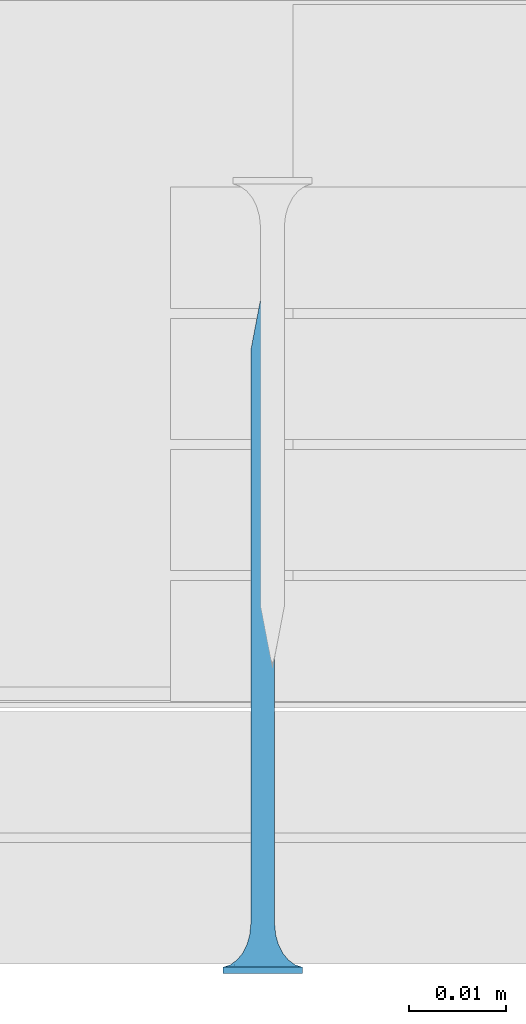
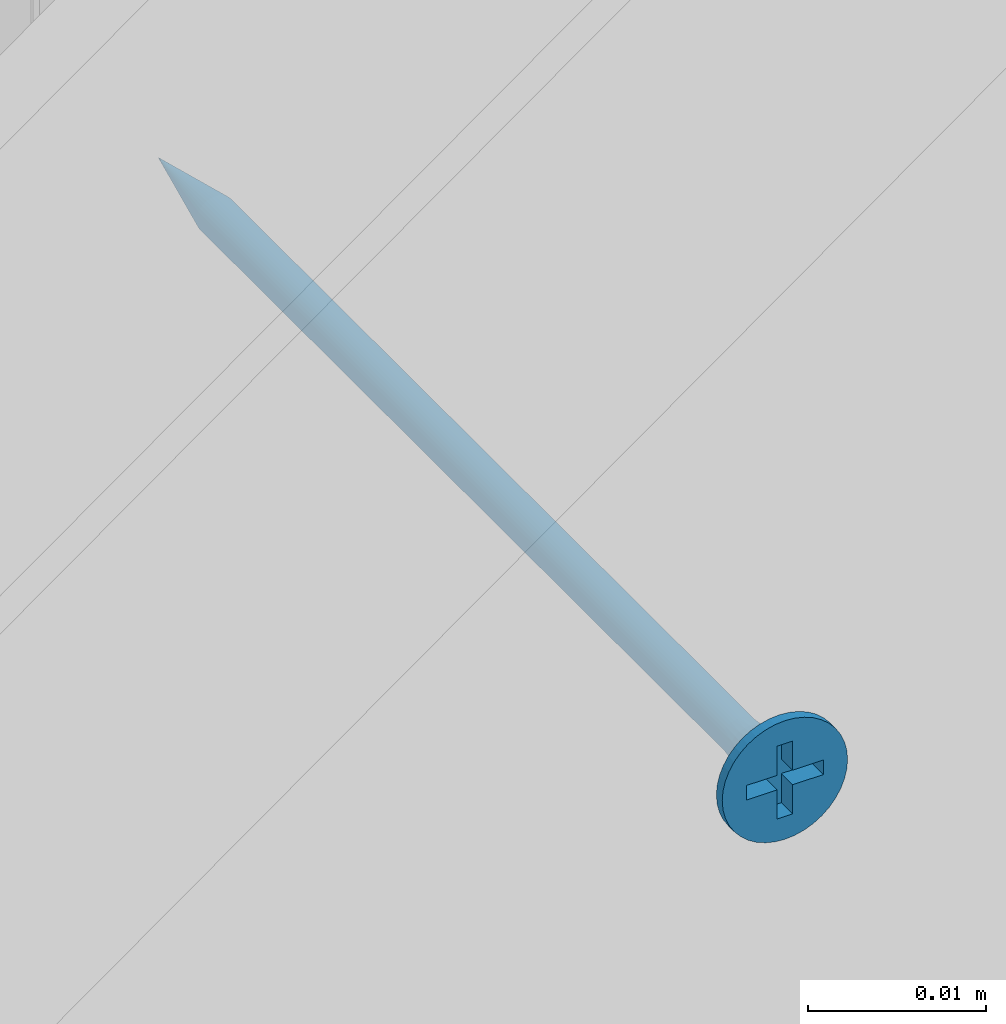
# One storey, part 23 of 32: 1 wall.
"""IFC2X3 building model written with IfcOpenShell, lengths in millimetres."""

from ifc_helpers import new_model, entity, si_unit, converted_unit, direction, frame, origin, origin_with_axes, place, context, project, spatial, faceted_brep, element, save


model = new_model("IFC2X3")

# Units and contexts
model_context = context("Model", 3, precision=1e-05, world=origin(), true_north=direction((0.0, 1.0, 0.0)))
ifc_project = project(units=[si_unit("LENGTHUNIT", "METRE", prefix="MILLI"), si_unit("AREAUNIT", "SQUARE_METRE"), si_unit("VOLUMEUNIT", "CUBIC_METRE"), converted_unit("PLANEANGLEUNIT", "DEGREE", entity("IfcPlaneAngleMeasure", 0.01745), si_unit("PLANEANGLEUNIT", "RADIAN"), dimensions=[0, 0, 0, 0, 0, 0, 0]), si_unit("SOLIDANGLEUNIT", "STERADIAN"), si_unit("MASSUNIT", "GRAM"), si_unit("TIMEUNIT", "SECOND"), si_unit("THERMODYNAMICTEMPERATUREUNIT", "DEGREE_CELSIUS"), si_unit("LUMINOUSINTENSITYUNIT", "LUMEN")], contexts=[model_context])

# Site, building, storey
site_placement = place(None, origin_with_axes())
site = spatial("IfcSite", under=ifc_project, at=site_placement, Name="Default Site", CompositionType="ELEMENT")
building_placement = place(site_placement, origin_with_axes())
building = spatial("IfcBuilding", under=site, at=building_placement, Name="Default Building", CompositionType="ELEMENT")
storey_placement = place(building_placement, origin_with_axes())
storey = spatial("IfcBuildingStorey", under=building, at=storey_placement, Name="Default Building Storey", CompositionType="ELEMENT", Elevation=0.0)

# Wall
wall_placement = place(storey_placement, frame((3244.083250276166, 6753.051005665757, -252.9029311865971), z_axis=(0.0, 0.0, 1.0), x_axis=(1.0, 4.718447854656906e-16, 0.0)))
element("IfcWall", 1, at=wall_placement, inside=storey, Name="Wkręt RIGIPS TN 70", context=model_context, shape_type="Brep", body=[
    faceted_brep([(-138.5557071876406, -4769.093757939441, 555.2413100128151), (-138.5557071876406, -4828.206294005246, 555.2413100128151), (-138.4548091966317, -4828.206294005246, 555.0766594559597), (-138.4548091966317, -4769.093757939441, 555.0766594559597), (-137.2667048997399, -4769.093757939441, 554.5845305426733), (-137.4592163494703, -4769.093757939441, 554.5693795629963), (-137.4592163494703, -4828.206294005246, 554.5693795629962), (-137.2667048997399, -4828.206294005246, 554.5845305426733), (-137.0789337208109, -4769.093757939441, 554.6296104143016), (-137.0789337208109, -4828.206294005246, 554.6296104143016), (-137.2667048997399, -4828.206294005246, 557.0154694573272), (-137.4592163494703, -4828.206294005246, 557.0306204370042), (-137.4592163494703, -4769.093757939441, 557.0306204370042), (-137.2667048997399, -4769.093757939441, 557.0154694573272), (-136.5890362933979, -4769.093757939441, 554.929819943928), (-136.5890362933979, -4828.206294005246, 554.929819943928), (-136.4636235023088, -4828.206294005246, 555.0766594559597), (-136.4636235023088, -4769.093757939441, 555.0766594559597), (-137.0789337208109, -4828.206294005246, 556.9703895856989), (-137.0789337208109, -4769.093757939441, 556.9703895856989), (-136.7358758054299, -4769.093757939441, 554.804407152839), (-136.7358758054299, -4828.206294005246, 554.804407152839), (-136.3627255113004, -4828.206294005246, 555.2413100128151), (-136.3627255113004, -4769.093757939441, 555.2413100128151), (-136.7358758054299, -4828.206294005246, 556.7955928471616), (-136.9005263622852, -4828.206294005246, 556.8964908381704), (-136.9005263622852, -4769.093757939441, 556.8964908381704), (-136.7358758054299, -4769.093757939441, 556.7955928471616), (-136.3627255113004, -4769.093757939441, 556.3586899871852), (-136.3627255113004, -4828.206294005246, 556.3586899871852), (-136.4636235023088, -4828.206294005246, 556.5233405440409), (-136.4636235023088, -4769.093757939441, 556.5233405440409), (-138.3293964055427, -4828.206294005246, 554.929819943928), (-138.3293964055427, -4769.093757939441, 554.929819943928), (-136.9005263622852, -4769.093757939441, 554.7035091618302), (-136.9005263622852, -4828.206294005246, 554.7035091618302), (-138.629605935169, -4769.093757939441, 556.1802826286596), (-138.629605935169, -4828.206294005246, 556.1802826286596), (-138.6746858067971, -4828.206294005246, 555.9925114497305), (-138.6746858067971, -4769.093757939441, 555.9925114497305), (-138.6898367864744, -4769.093757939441, 555.8000000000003), (-138.6898367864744, -4828.206294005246, 555.8000000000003), (-138.6746858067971, -4828.206294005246, 555.60748855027), (-138.6746858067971, -4769.093757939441, 555.60748855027), (-136.2888267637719, -4769.093757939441, 555.4197173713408), (-136.2888267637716, -4828.206294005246, 555.4197173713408), (-136.2437468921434, -4828.206294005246, 555.60748855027), (-136.2437468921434, -4769.093757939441, 555.60748855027), (-138.182556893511, -4828.206294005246, 556.7955928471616), (-138.3293964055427, -4828.206294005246, 556.6701800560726), (-138.3293964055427, -4769.093757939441, 556.6701800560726), (-138.182556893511, -4769.093757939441, 556.7955928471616), (-136.5890362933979, -4828.206294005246, 556.6701800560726), (-136.5890362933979, -4769.093757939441, 556.6701800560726), (-137.6517277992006, -4828.206294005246, 557.0154694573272), (-137.8394989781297, -4828.206294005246, 556.9703895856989), (-137.8394989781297, -4769.093757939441, 556.9703895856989), (-137.6517277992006, -4769.093757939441, 557.0154694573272), (-138.4548091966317, -4828.206294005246, 556.5233405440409), (-138.4548091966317, -4769.093757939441, 556.5233405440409), (-138.0179063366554, -4769.093757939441, 554.7035091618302), (-138.182556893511, -4769.093757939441, 554.804407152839), (-138.182556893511, -4828.206294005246, 554.804407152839), (-138.0179063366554, -4828.206294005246, 554.7035091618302), (-137.6517277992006, -4769.093757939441, 554.5845305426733), (-137.8394989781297, -4769.093757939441, 554.6296104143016), (-137.8394989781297, -4828.206294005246, 554.6296104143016), (-137.6517277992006, -4828.206294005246, 554.5845305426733), (-138.0179063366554, -4828.206294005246, 556.8964908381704), (-138.0179063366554, -4769.093757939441, 556.8964908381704), (-138.629605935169, -4828.206294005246, 555.4197173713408), (-138.629605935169, -4769.093757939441, 555.4197173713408), (-138.5557071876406, -4769.093757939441, 556.3586899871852), (-138.5557071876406, -4828.206294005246, 556.3586899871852), (-136.2888267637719, -4769.093757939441, 556.1802826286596), (-136.2888267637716, -4828.206294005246, 556.1802826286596), (-136.2437468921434, -4769.093757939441, 555.9925114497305), (-136.2437468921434, -4828.206294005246, 555.9925114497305), (-136.2285959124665, -4769.093757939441, 555.8000000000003), (-136.2285959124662, -4828.206294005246, 555.8000000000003), (-141.5377463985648, -4832.59805152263, 555.8000000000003), (-141.5377463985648, -4833.259713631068, 555.8000000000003), (-141.4875329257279, -4833.259713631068, 555.1619773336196), (-141.4875329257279, -4832.59805152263, 555.1619773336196), (-141.3381289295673, -4833.259713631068, 554.5396649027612), (-141.3381289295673, -4832.59805152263, 554.5396649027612), (-141.0932132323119, -4833.259713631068, 553.9483861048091), (-141.0932132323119, -4832.59805152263, 553.9483861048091), (-140.7588164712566, -4833.259713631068, 553.4027001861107), (-140.7588164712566, -4832.59805152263, 553.4027001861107), (-140.3431726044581, -4833.259713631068, 552.9160437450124), (-140.4541727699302, -4832.59805152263, 553.0314907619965), (-140.1080097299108, -4832.59805152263, 552.6986614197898), (-139.8565161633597, -4833.259713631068, 552.5003998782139), (-139.7251262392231, -4832.59805152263, 552.4088262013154), (-139.3108302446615, -4833.259713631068, 552.1660031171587), (-139.3108302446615, -4832.59805152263, 552.1660031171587), (-138.870865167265, -4832.59805152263, 551.9735584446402), (-138.7195514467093, -4833.259713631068, 551.9210874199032), (-138.4113302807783, -4832.59805152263, 551.8341600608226), (-137.9385961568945, -4832.59805152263, 551.7497404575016), (-138.0972390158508, -4833.259713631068, 551.7716834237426), (-137.4592163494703, -4833.259713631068, 551.7214699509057), (-137.4592163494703, -4832.59805152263, 551.7214699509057), (-136.8211936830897, -4833.259713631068, 551.7716834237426), (-136.8211936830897, -4832.59805152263, 551.7716834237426), (-136.1988812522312, -4833.259713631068, 551.9210874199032), (-136.1988812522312, -4832.59805152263, 551.9210874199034), (-135.6076024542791, -4833.259713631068, 552.1660031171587), (-135.6076024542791, -4832.59805152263, 552.1660031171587), (-135.0619165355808, -4833.259713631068, 552.5003998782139), (-135.0619165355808, -4832.59805152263, 552.5003998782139), (-134.5752600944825, -4833.259713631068, 552.9160437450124), (-134.5752600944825, -4832.59805152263, 552.9160437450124), (-134.159616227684, -4833.259713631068, 553.4027001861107), (-134.159616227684, -4832.59805152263, 553.4027001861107), (-133.8252194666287, -4833.259713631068, 553.9483861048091), (-133.8252194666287, -4832.59805152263, 553.9483861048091), (-133.5803037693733, -4833.259713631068, 554.5396649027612), (-133.5803037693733, -4832.59805152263, 554.5396649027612), (-133.4308997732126, -4833.259713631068, 556.4380226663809), (-133.4308997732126, -4832.59805152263, 556.4380226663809), (-133.3806863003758, -4832.59805152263, 555.8000000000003), (-133.3806863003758, -4833.259713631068, 555.8000000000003), (-133.4308997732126, -4832.59805152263, 555.1619773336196), (-133.4308997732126, -4833.259713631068, 555.1619773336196), (-133.5803037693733, -4833.259713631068, 557.0603350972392), (-133.5803037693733, -4832.59805152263, 557.0603350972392), (-133.8252194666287, -4833.259713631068, 557.6516138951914), (-133.8252194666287, -4832.59805152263, 557.6516138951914), (-134.159616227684, -4833.259713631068, 558.1972998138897), (-134.159616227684, -4832.59805152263, 558.1972998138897), (-134.5752600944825, -4833.259713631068, 558.683956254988), (-134.5752600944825, -4832.59805152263, 558.683956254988), (-135.0619165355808, -4833.259713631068, 559.0996001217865), (-135.0619165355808, -4832.59805152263, 559.0996001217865), (-135.6076024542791, -4833.259713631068, 559.4339968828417), (-135.6076024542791, -4832.59805152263, 559.4339968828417), (-136.1988812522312, -4833.259713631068, 559.6789125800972), (-136.1988812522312, -4832.59805152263, 559.6789125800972), (-136.8211936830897, -4833.259713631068, 559.8283165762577), (-136.8211936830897, -4832.59805152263, 559.8283165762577), (-137.4592163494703, -4833.259713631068, 559.8785300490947), (-137.4592163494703, -4832.59805152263, 559.8785300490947), (-138.0972390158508, -4833.259713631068, 559.8283165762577), (-138.0972390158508, -4832.59805152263, 559.8283165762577), (-138.7195514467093, -4833.259713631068, 559.6789125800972), (-138.7195514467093, -4832.59805152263, 559.6789125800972), (-139.3108302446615, -4833.259713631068, 559.4339968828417), (-139.3108302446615, -4832.59805152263, 559.4339968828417), (-139.8565161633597, -4833.259713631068, 559.0996001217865), (-139.8565161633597, -4832.59805152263, 559.0996001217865), (-140.3431726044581, -4833.259713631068, 558.683956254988), (-140.3431726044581, -4832.59805152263, 558.683956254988), (-140.7588164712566, -4833.259713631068, 558.1972998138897), (-140.7588164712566, -4832.59805152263, 558.1972998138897), (-141.0932132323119, -4833.259713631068, 557.6516138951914), (-141.0932132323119, -4832.59805152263, 557.6516138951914), (-141.3381289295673, -4833.259713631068, 557.0603350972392), (-141.3381289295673, -4832.59805152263, 557.0603350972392), (-141.4875329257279, -4833.259713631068, 556.4380226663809), (-141.4875329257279, -4832.59805152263, 556.4380226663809), (-137.8060615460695, -4829.281368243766, 554.5055560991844), (-137.4592163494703, -4829.281368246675, 554.4598930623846), (-138.1292698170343, -4829.281368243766, 554.639433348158), (-138.4068150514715, -4829.281368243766, 554.8524012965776), (-138.6197830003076, -4829.281368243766, 555.1299465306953), (-138.7536602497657, -4829.281368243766, 555.4531548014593), (-138.7993232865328, -4829.281368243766, 555.7999999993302), (-138.7536602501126, -4829.281368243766, 556.1468451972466), (-138.6197830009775, -4829.281368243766, 556.4700534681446), (-138.4068150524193, -4829.281368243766, 556.7475987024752), (-138.1292698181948, -4829.281368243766, 556.9605666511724), (-137.8060615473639, -4829.281368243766, 557.0944439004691), (-137.4592163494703, -4829.281368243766, 557.1401069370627), (-137.1123711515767, -4829.281368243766, 557.0944439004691), (-136.7891628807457, -4829.281368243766, 556.9605666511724), (-136.5116176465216, -4829.281368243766, 556.7475987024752), (-136.2986496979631, -4829.281368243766, 556.4700534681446), (-136.1647724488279, -4829.281368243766, 556.1468451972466), (-136.1191094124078, -4829.281368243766, 555.7999999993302), (-136.1647724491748, -4829.281368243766, 555.4531548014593), (-136.298649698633, -4829.281368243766, 555.1299465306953), (-136.5116176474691, -4829.281368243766, 554.8524012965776), (-136.7891628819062, -4829.281368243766, 554.639433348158), (-137.112371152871, -4829.281368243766, 554.5055560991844), (-137.4592163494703, -4830.288222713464, 554.1737111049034), (-137.8801308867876, -4830.288222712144, 554.229125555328), (-138.2723607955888, -4830.288222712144, 554.3915925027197), (-138.6091762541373, -4830.288222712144, 554.6500400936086), (-138.8676238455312, -4830.288222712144, 554.9868555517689), (-139.0300907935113, -4830.288222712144, 555.3790854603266), (-139.085505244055, -4830.288222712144, 555.7999999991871), (-139.0300907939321, -4830.288222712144, 556.2209145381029), (-138.8676238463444, -4830.288222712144, 556.6131444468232), (-138.6091762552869, -4830.288222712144, 556.9499599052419), (-138.2723607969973, -4830.288222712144, 557.2084074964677), (-137.8801308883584, -4830.288222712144, 557.3708744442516), (-137.4592163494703, -4830.288222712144, 557.426288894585), (-137.0383018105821, -4830.288222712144, 557.3708744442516), (-136.6460719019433, -4830.288222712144, 557.2084074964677), (-136.3092564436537, -4830.288222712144, 556.9499599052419), (-136.0508088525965, -4830.288222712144, 556.6131444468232), (-135.8883419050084, -4830.288222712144, 556.2209145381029), (-135.8329274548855, -4830.288222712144, 555.7999999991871), (-135.8883419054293, -4830.288222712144, 555.3790854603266), (-136.0508088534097, -4830.288222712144, 554.9868555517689), (-136.3092564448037, -4830.288222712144, 554.6500400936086), (-136.6460719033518, -4830.288222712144, 554.3915925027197), (-137.038301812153, -4830.288222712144, 554.229125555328), (-137.4592163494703, -4831.168773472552, 553.7273431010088), (-137.9956594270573, -4831.168773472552, 553.7979671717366), (-138.4955447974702, -4831.168773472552, 554.005026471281), (-138.9248060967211, -4831.168773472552, 554.3344102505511), (-139.2541898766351, -4831.168773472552, 554.7636715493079), (-139.4612491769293, -4831.168773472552, 555.2635569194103), (-139.5318732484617, -4831.168773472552, 555.7999999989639), (-139.4612491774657, -4831.168773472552, 556.3364430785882), (-139.2541898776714, -4831.168773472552, 556.8363284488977), (-138.9248060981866, -4831.168773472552, 557.2655897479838), (-138.4955447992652, -4831.168773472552, 557.594973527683), (-137.9956594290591, -4831.168773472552, 557.8020328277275), (-137.4592163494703, -4831.168773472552, 557.8726568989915), (-136.9227732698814, -4831.168773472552, 557.8020328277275), (-136.4228878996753, -4831.168773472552, 557.594973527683), (-135.993626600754, -4831.168773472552, 557.2655897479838), (-135.6642428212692, -4831.168773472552, 556.8363284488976), (-135.4571835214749, -4831.168773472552, 556.3364430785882), (-135.3865594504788, -4831.168773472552, 555.7999999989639), (-135.4571835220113, -4831.168773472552, 555.2635569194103), (-135.6642428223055, -4831.168773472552, 554.7636715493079), (-135.9936266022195, -4831.168773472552, 554.3344102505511), (-136.4228879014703, -4831.168773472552, 554.005026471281), (-136.9227732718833, -4831.168773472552, 553.7979671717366), (-137.4592163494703, -4831.872222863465, 553.1465393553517), (-138.1459824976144, -4831.872222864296, 553.2369538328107), (-138.7859466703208, -4831.872222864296, 553.5020356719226), (-139.3354963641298, -4831.872222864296, 553.9237199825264), (-139.7571806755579, -4831.872222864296, 554.4732696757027), (-140.0222625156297, -4831.872222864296, 555.1132338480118), (-140.1126769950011, -4831.872222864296, 555.7999999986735), (-140.0222625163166, -4831.872222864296, 556.4867661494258), (-139.7571806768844, -4831.872222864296, 557.1267303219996), (-139.335496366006, -4831.872222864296, 557.6762800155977), (-138.7859466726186, -4831.872222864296, 558.0979643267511), (-138.1459825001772, -4831.872222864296, 558.3630461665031), (-137.4592163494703, -4831.872222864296, 558.4534606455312), (-136.7724501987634, -4831.872222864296, 558.3630461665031), (-136.1324860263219, -4831.872222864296, 558.0979643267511), (-135.5829363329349, -4831.872222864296, 557.6762800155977), (-135.1612520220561, -4831.872222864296, 557.1267303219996), (-134.8961701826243, -4831.872222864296, 556.4867661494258), (-134.8057557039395, -4831.872222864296, 555.7999999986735), (-134.8961701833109, -4831.872222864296, 555.1132338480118), (-135.1612520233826, -4831.872222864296, 554.4732696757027), (-135.5829363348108, -4831.872222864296, 553.9237199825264), (-136.1324860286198, -4831.872222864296, 553.5020356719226), (-136.7724502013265, -4831.872222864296, 553.2369538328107), (-137.4592163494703, -4832.35798993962, 552.4648055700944), (-138.3224281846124, -4832.357989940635, 552.578449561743), (-139.1268135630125, -4832.357989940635, 552.9116368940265), (-139.8175549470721, -4832.357989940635, 553.4416613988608), (-140.3475794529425, -4832.357989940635, 554.1324027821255), (-140.6807667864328, -4832.357989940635, 554.9367881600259), (-140.7944107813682, -4832.357989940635, 555.7999999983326), (-140.6807667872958, -4832.357989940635, 556.6632118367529), (-140.3475794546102, -4832.357989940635, 557.4675972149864), (-139.8175549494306, -4832.357989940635, 558.1583385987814), (-139.1268135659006, -4832.357989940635, 558.6883631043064), (-138.322428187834, -4832.357989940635, 559.0215504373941), (-137.4592163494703, -4832.357989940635, 559.1351944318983), (-136.5960045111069, -4832.357989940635, 559.0215504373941), (-135.79161913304, -4832.357989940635, 558.6883631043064), (-135.10087774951, -4832.357989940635, 558.1583385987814), (-134.5708532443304, -4832.357989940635, 557.4675972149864), (-134.2376659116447, -4832.357989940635, 556.6632118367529), (-134.1240219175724, -4832.357989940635, 555.7999999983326), (-134.2376659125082, -4832.357989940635, 554.9367881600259), (-134.570853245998, -4832.357989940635, 554.1324027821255), (-135.1008777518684, -4832.357989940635, 553.4416613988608), (-135.7916191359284, -4832.357989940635, 552.9116368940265), (-136.5960045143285, -4832.357989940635, 552.578449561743), (-137.4592163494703, -4762.627063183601, 555.8000000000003), (-139.9592163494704, -4833.259713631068, 556.3000000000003), (-137.9592163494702, -4833.259713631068, 556.3000000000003), (-139.9592163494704, -4833.259713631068, 555.3000000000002), (-137.9592163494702, -4833.259713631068, 555.3000000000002), (-137.9592163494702, -4833.259713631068, 553.3000000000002), (-136.9592163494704, -4833.259713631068, 553.3000000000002), (-136.9592163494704, -4833.259713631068, 555.3000000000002), (-134.9592163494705, -4833.259713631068, 555.3000000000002), (-134.9592163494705, -4833.259713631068, 556.3000000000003), (-136.9592163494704, -4833.259713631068, 556.3000000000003), (-136.9592163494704, -4833.259713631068, 558.3000000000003), (-137.9592163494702, -4833.259713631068, 558.3000000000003), (-136.9592163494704, -4831.988379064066, 556.3000000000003), (-134.9592163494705, -4831.988379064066, 556.3000000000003), (-134.9592163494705, -4831.988379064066, 555.3000000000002), (-136.9592163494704, -4831.988379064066, 555.3000000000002), (-136.9592163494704, -4831.988379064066, 553.3000000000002), (-137.9592163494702, -4831.988379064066, 553.3000000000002), (-137.9592163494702, -4831.988379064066, 555.3000000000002), (-139.9592163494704, -4831.988379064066, 555.3000000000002), (-139.9592163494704, -4831.988379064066, 556.3000000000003), (-137.9592163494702, -4831.988379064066, 556.3000000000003), (-137.9592163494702, -4831.988379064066, 558.3000000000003), (-136.9592163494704, -4831.988379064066, 558.3000000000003)], [[[0, 1, 2, 3]], [[4, 5, 6, 7]], [[8, 4, 7, 9]], [[10, 11, 12, 13]], [[14, 15, 16, 17]], [[18, 10, 13, 19]], [[14, 20, 21, 15]], [[17, 16, 22, 23]], [[24, 25, 26, 27]], [[28, 29, 30, 31]], [[3, 2, 32, 33]], [[34, 8, 9, 35]], [[36, 37, 38, 39]], [[40, 41, 42, 43]], [[44, 45, 46, 47]], [[48, 49, 50, 51]], [[31, 30, 52, 53]], [[54, 55, 56, 57]], [[50, 49, 58, 59]], [[60, 61, 62, 63]], [[64, 65, 66, 67]], [[68, 48, 51, 69]], [[43, 42, 70, 71]], [[71, 70, 1, 0]], [[61, 33, 32, 62]], [[65, 60, 63, 66]], [[5, 64, 67, 6]], [[72, 73, 37, 36]], [[20, 34, 35, 21]], [[11, 54, 57, 12]], [[59, 58, 73, 72]], [[55, 68, 69, 56]], [[74, 75, 29, 28]], [[23, 22, 45, 44]], [[76, 77, 75, 74]], [[52, 24, 27, 53]], [[78, 79, 77, 76]], [[47, 46, 79, 78]], [[25, 18, 19, 26]], [[39, 38, 41, 40]], [[80, 81, 82, 83]], [[84, 85, 83, 82]], [[86, 87, 85, 84]], [[87, 86, 88, 89]], [[88, 90, 89]], [[90, 91, 89]], [[92, 91, 93]], [[91, 90, 93]], [[93, 94, 92]], [[93, 95, 94]], [[95, 96, 94]], [[97, 96, 98]], [[96, 95, 98]], [[98, 99, 97]], [[100, 99, 101]], [[99, 98, 101]], [[101, 102, 100]], [[102, 103, 100]], [[103, 102, 104, 105]], [[106, 107, 105, 104]], [[108, 109, 107, 106]], [[109, 108, 110, 111]], [[112, 113, 111, 110]], [[113, 112, 114, 115]], [[116, 117, 115, 114]], [[118, 119, 117, 116]], [[120, 121, 122, 123]], [[123, 122, 124, 125]], [[119, 118, 125, 124]], [[126, 127, 121, 120]], [[128, 129, 127, 126]], [[129, 128, 130, 131]], [[132, 133, 131, 130]], [[133, 132, 134, 135]], [[136, 137, 135, 134]], [[138, 139, 137, 136]], [[139, 138, 140, 141]], [[142, 143, 141, 140]], [[143, 142, 144, 145]], [[146, 147, 145, 144]], [[148, 149, 147, 146]], [[149, 148, 150, 151]], [[152, 153, 151, 150]], [[153, 152, 154, 155]], [[156, 157, 155, 154]], [[158, 159, 157, 156]], [[159, 158, 160, 161]], [[81, 80, 161, 160]], [[162, 6, 67]], [[162, 163, 6]], [[67, 66, 162]], [[162, 66, 164]], [[63, 164, 66]], [[164, 63, 62]], [[62, 165, 164]], [[62, 32, 165]], [[166, 32, 2]], [[166, 165, 32]], [[2, 1, 166]], [[166, 1, 167]], [[70, 167, 1]], [[167, 70, 42]], [[42, 168, 167]], [[42, 41, 168]], [[169, 41, 38]], [[169, 168, 41]], [[38, 37, 169]], [[169, 37, 170]], [[73, 170, 37]], [[170, 73, 58]], [[58, 171, 170]], [[58, 49, 171]], [[172, 49, 48]], [[172, 171, 49]], [[48, 68, 172]], [[172, 68, 173]], [[55, 173, 68]], [[173, 55, 54]], [[54, 174, 173]], [[54, 11, 174]], [[175, 11, 10]], [[175, 174, 11]], [[10, 18, 175]], [[175, 18, 176]], [[25, 176, 18]], [[176, 25, 24]], [[24, 177, 176]], [[24, 52, 177]], [[178, 52, 30]], [[178, 177, 52]], [[30, 29, 178]], [[178, 29, 179]], [[75, 179, 29]], [[179, 75, 77]], [[77, 180, 179]], [[77, 79, 180]], [[181, 79, 46]], [[181, 180, 79]], [[46, 45, 181]], [[181, 45, 182]], [[22, 182, 45]], [[182, 22, 16]], [[16, 183, 182]], [[16, 15, 183]], [[184, 15, 21]], [[184, 183, 15]], [[21, 35, 184]], [[184, 35, 185]], [[9, 185, 35]], [[185, 9, 7]], [[7, 163, 185]], [[7, 6, 163]], [[186, 163, 187]], [[162, 187, 163]], [[164, 188, 187, 162]], [[165, 189, 188, 164]], [[166, 190, 189, 165]], [[167, 191, 190, 166]], [[168, 192, 191, 167]], [[169, 193, 192, 168]], [[170, 194, 193, 169]], [[171, 195, 194, 170]], [[172, 196, 195, 171]], [[173, 197, 196, 172]], [[174, 198, 197, 173]], [[175, 199, 198, 174]], [[176, 200, 199, 175]], [[177, 201, 200, 176]], [[178, 202, 201, 177]], [[179, 203, 202, 178]], [[180, 204, 203, 179]], [[181, 205, 204, 180]], [[182, 206, 205, 181]], [[183, 207, 206, 182]], [[184, 208, 207, 183]], [[185, 209, 208, 184]], [[185, 163, 209]], [[186, 209, 163]], [[210, 186, 211]], [[187, 211, 186]], [[188, 212, 211, 187]], [[189, 213, 212, 188]], [[190, 214, 213, 189]], [[191, 215, 214, 190]], [[192, 216, 215, 191]], [[193, 217, 216, 192]], [[194, 218, 217, 193]], [[195, 219, 218, 194]], [[196, 220, 219, 195]], [[197, 221, 220, 196]], [[198, 222, 221, 197]], [[199, 223, 222, 198]], [[200, 224, 223, 199]], [[201, 225, 224, 200]], [[202, 226, 225, 201]], [[203, 227, 226, 202]], [[204, 228, 227, 203]], [[205, 229, 228, 204]], [[206, 230, 229, 205]], [[207, 231, 230, 206]], [[208, 232, 231, 207]], [[209, 233, 232, 208]], [[209, 186, 233]], [[210, 233, 186]], [[234, 210, 235]], [[211, 235, 210]], [[212, 236, 235, 211]], [[213, 237, 236, 212]], [[214, 238, 237, 213]], [[215, 239, 238, 214]], [[216, 240, 239, 215]], [[217, 241, 240, 216]], [[218, 242, 241, 217]], [[219, 243, 242, 218]], [[220, 244, 243, 219]], [[221, 245, 244, 220]], [[222, 246, 245, 221]], [[223, 247, 246, 222]], [[224, 248, 247, 223]], [[225, 249, 248, 224]], [[226, 250, 249, 225]], [[227, 251, 250, 226]], [[228, 252, 251, 227]], [[229, 253, 252, 228]], [[230, 254, 253, 229]], [[231, 255, 254, 230]], [[232, 256, 255, 231]], [[233, 257, 256, 232]], [[233, 210, 257]], [[234, 257, 210]], [[258, 99, 100]], [[258, 259, 99]], [[100, 103, 258]], [[258, 234, 259]], [[235, 259, 234]], [[259, 96, 97]], [[259, 260, 96]], [[97, 99, 259]], [[236, 260, 259, 235]], [[261, 91, 92]], [[260, 92, 94]], [[260, 261, 92]], [[94, 96, 260]], [[237, 261, 260, 236]], [[262, 87, 89]], [[89, 261, 262]], [[89, 91, 261]], [[238, 262, 261, 237]], [[85, 87, 263]], [[262, 263, 87]], [[239, 263, 262, 238]], [[263, 80, 83]], [[263, 264, 80]], [[83, 85, 263]], [[240, 264, 263, 239]], [[265, 159, 161]], [[161, 264, 265]], [[161, 80, 264]], [[241, 265, 264, 240]], [[265, 266, 157, 159]], [[242, 266, 265, 241]], [[266, 153, 155]], [[266, 267, 153]], [[155, 157, 266]], [[243, 267, 266, 242]], [[268, 149, 151]], [[151, 267, 268]], [[151, 153, 267]], [[244, 268, 267, 243]], [[268, 269, 147, 149]], [[245, 269, 268, 244]], [[269, 143, 145]], [[269, 270, 143]], [[145, 147, 269]], [[246, 270, 269, 245]], [[271, 139, 141]], [[141, 270, 271]], [[141, 143, 270]], [[247, 271, 270, 246]], [[271, 272, 137, 139]], [[248, 272, 271, 247]], [[272, 133, 135]], [[272, 273, 133]], [[135, 137, 272]], [[249, 273, 272, 248]], [[274, 129, 131]], [[131, 273, 274]], [[131, 133, 273]], [[250, 274, 273, 249]], [[274, 275, 127, 129]], [[251, 275, 274, 250]], [[275, 122, 121]], [[275, 276, 122]], [[121, 127, 275]], [[252, 276, 275, 251]], [[277, 119, 124]], [[124, 276, 277]], [[124, 122, 276]], [[253, 277, 276, 252]], [[117, 119, 278]], [[277, 278, 119]], [[254, 278, 277, 253]], [[278, 113, 115]], [[278, 279, 113]], [[115, 117, 278]], [[255, 279, 278, 254]], [[280, 109, 111]], [[111, 279, 280]], [[111, 113, 279]], [[256, 280, 279, 255]], [[107, 109, 281]], [[280, 281, 109]], [[257, 281, 280, 256]], [[257, 234, 281]], [[258, 281, 234]], [[281, 103, 105]], [[281, 258, 103]], [[105, 107, 281]], [[43, 71, 282]], [[282, 40, 43]], [[71, 0, 282]], [[3, 33, 282]], [[282, 0, 3]], [[61, 60, 282]], [[282, 33, 61]], [[60, 65, 282]], [[64, 5, 282]], [[282, 65, 64]], [[4, 8, 282]], [[282, 5, 4]], [[8, 34, 282]], [[20, 14, 282]], [[282, 34, 20]], [[17, 23, 282]], [[282, 14, 17]], [[23, 44, 282]], [[47, 78, 282]], [[282, 44, 47]], [[76, 74, 282]], [[282, 78, 76]], [[74, 28, 282]], [[31, 53, 282]], [[282, 28, 31]], [[27, 26, 282]], [[282, 53, 27]], [[26, 19, 282]], [[13, 12, 282]], [[282, 19, 13]], [[57, 56, 282]], [[282, 12, 57]], [[56, 69, 282]], [[51, 50, 282]], [[282, 69, 51]], [[59, 72, 282]], [[282, 50, 59]], [[72, 36, 282]], [[39, 40, 282]], [[282, 36, 39]], [[283, 156, 154, 284]], [[283, 285, 286, 287, 288, 289, 290, 291, 292, 293, 294, 284, 154, 152, 150, 148, 146, 144, 142, 140, 138, 136, 134, 132, 130, 128, 126, 120, 123, 125, 118, 116, 114, 112, 110, 108, 106, 104, 102, 101, 98, 95, 93, 90, 88, 86, 84, 82, 81, 160, 158, 156]], [[295, 296, 297, 298, 299, 300, 301, 302, 303, 304, 305, 306]], [[297, 290, 289, 298]], [[296, 291, 290, 297]], [[295, 292, 291, 296]], [[306, 293, 292, 295]], [[305, 294, 293, 306]], [[304, 284, 294, 305]], [[303, 283, 284, 304]], [[302, 285, 283, 303]], [[301, 286, 285, 302]], [[300, 287, 286, 301]], [[299, 288, 287, 300]], [[298, 289, 288, 299]]]),
])

save(model, "model.ifc")
